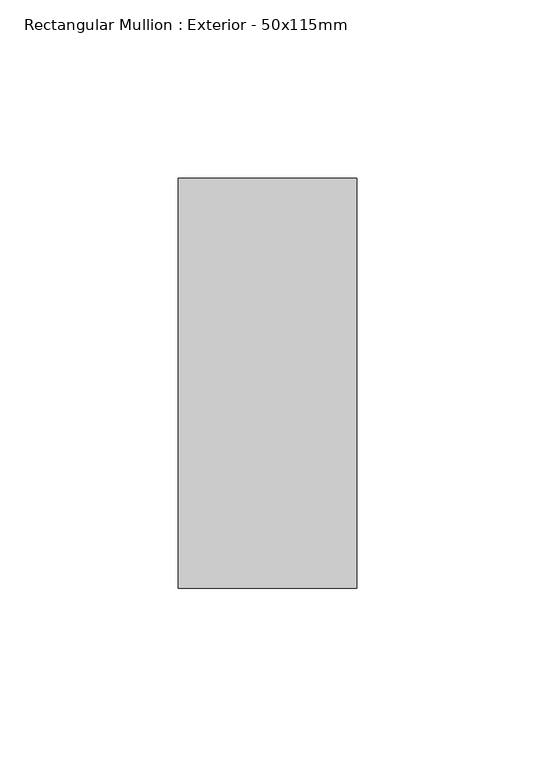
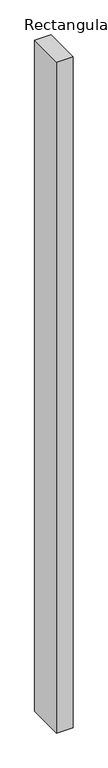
"""IFC4 building model written with IfcOpenShell, lengths in millimetres: member geometry, Rectangular Mullion : Exterior - 50x115mm."""

from ifc_helpers import new_model, si_unit, frame, origin, place, context, project, spatial, polyline, outline, extrude, source, transform, mapped, element, save


def rectangular_mullion_exterior_50x115mm_d26d7a7f(model_context):
    return source(origin(), model_context, "Body", "SweptSolid", [
        extrude(outline(polyline([(25.0, 115.0), (25.0, 0.0), (-25.0, 0.0), (-25.0, 115.0), (25.0, 115.0)])), frame((0.0, 0.0, -2150.0), z_axis=(0.0, 0.0, 1.0), x_axis=(1.0, 0.0, 0.0)), (0.0, 0.0, 1.0), 2150.0),
    ])


if __name__ == "__main__":
    model = new_model("IFC4")
    model_context = context("Model", 3, world=origin())
    ifc_project = project(units=[si_unit("LENGTHUNIT", "METRE", prefix="MILLI")], contexts=[model_context])
    site = spatial("IfcSite", under=ifc_project)
    building = spatial("IfcBuilding", under=site)
    placement = place(None, origin())
    rectangular_mullion_exterior_50x115mm_shape = rectangular_mullion_exterior_50x115mm_d26d7a7f(model_context)
    element("IfcMember", 1, ObjectType="Rectangular Mullion : Exterior - 50x115mm", at=placement, inside=building, context=model_context, shape_type="MappedRepresentation", body=[
        mapped(rectangular_mullion_exterior_50x115mm_shape, transform((0.0, 0.0, 0.0), x_axis=(1.0, 0.0, 0.0), y_axis=(0.0, 1.0, 0.0), z_axis=(0.0, 0.0, 1.0))),
    ])
    save(model, "model.ifc")
